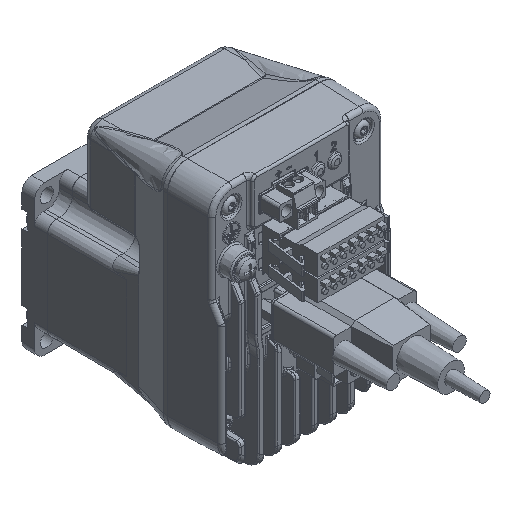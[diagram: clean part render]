
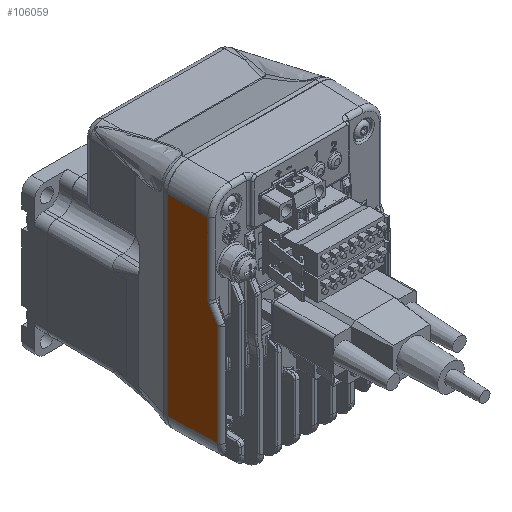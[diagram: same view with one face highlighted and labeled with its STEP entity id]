
A CAD part, isometric view. The second image highlights one B-rep face of the part: STEP entity #106059.
In plain terms, the highlighted planar face has unit normal (-1, -0.018, 0).
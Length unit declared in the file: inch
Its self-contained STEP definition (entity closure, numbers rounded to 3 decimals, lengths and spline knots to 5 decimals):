
#52762=CARTESIAN_POINT('',(-1.26971,-0.08092,0.85813));
#52763=VERTEX_POINT('',#52762);
#65907=CARTESIAN_POINT('',(-1.27215,0.05895,2.18894));
#65908=VERTEX_POINT('',#65907);
#65916=CARTESIAN_POINT('',(-1.27215,0.05895,1.13256));
#65917=VERTEX_POINT('',#65916);
#65918=CARTESIAN_POINT('',(-1.27215,0.05895,1.6976));
#65919=DIRECTION('',(0.,0.,-1.));
#65920=VECTOR('',#65919,39.37008);
#65921=LINE('',#65918,#65920);
#65922=EDGE_CURVE('',#65908,#65917,#65921,.T.);
#73586=CARTESIAN_POINT('',(-1.26971,-0.08092,-0.6518));
#73587=VERTEX_POINT('',#73586);
#73595=CARTESIAN_POINT('',(-1.28239,0.64588,-0.65748));
#73596=VERTEX_POINT('',#73595);
#73597=CARTESIAN_POINT('',(-1.27799,0.39334,-0.65551));
#73598=DIRECTION('',(-0.017,1.,-0.008));
#73599=VECTOR('',#73598,39.37008);
#73600=LINE('',#73597,#73599);
#73601=EDGE_CURVE('',#73587,#73596,#73600,.T.);
#98397=CARTESIAN_POINT('',(-1.28239,0.64588,2.19918));
#98398=VERTEX_POINT('',#98397);
#98406=CARTESIAN_POINT('',(-1.27788,0.38744,2.19467));
#98407=DIRECTION('',(0.017,-1.,-0.017));
#98408=VECTOR('',#98407,39.37008);
#98409=LINE('',#98406,#98408);
#98410=EDGE_CURVE('',#98398,#65908,#98409,.T.);
#99252=CARTESIAN_POINT('',(-1.27187,0.04288,1.07256));
#99253=VERTEX_POINT('',#99252);
#99261=CARTESIAN_POINT('',(-1.27498,0.22085,1.38083));
#99262=DIRECTION('',(0.009,-0.5,-0.866));
#99263=VECTOR('',#99262,39.37008);
#99264=LINE('',#99261,#99263);
#99265=EDGE_CURVE('',#99253,#52763,#99264,.T.);
#100753=CARTESIAN_POINT('',(-1.26971,-0.08092,0.77274));
#100754=DIRECTION('',(0.,0.,-1.));
#100755=VECTOR('',#100754,39.37008);
#100756=LINE('',#100753,#100755);
#100757=EDGE_CURVE('',#52763,#73587,#100756,.T.);
#106034=ORIENTED_EDGE('',*,*,#100757,.F.);
#106035=ORIENTED_EDGE('',*,*,#99265,.F.);
#106036=CARTESIAN_POINT('',(-1.27006,-0.06105,1.13256));
#106037=DIRECTION('',(-1.,-0.017,0.));
#106038=DIRECTION('',(-0.017,1.,0.));
#106039=AXIS2_PLACEMENT_3D('',#106036,#106037,#106038);
#106040=ELLIPSE('',#106039,0.12002,0.12);
#106041=EDGE_CURVE('',#65917,#99253,#106040,.T.);
#106042=ORIENTED_EDGE('',*,*,#106041,.F.);
#106043=ORIENTED_EDGE('',*,*,#65922,.F.);
#106044=ORIENTED_EDGE('',*,*,#98410,.F.);
#106045=CARTESIAN_POINT('',(-1.28239,0.64588,0.709));
#106046=DIRECTION('',(0.,0.,-1.));
#106047=VECTOR('',#106046,1.);
#106048=LINE('',#106045,#106047);
#106049=EDGE_CURVE('',#98398,#73596,#106048,.T.);
#106050=ORIENTED_EDGE('',*,*,#106049,.T.);
#106051=ORIENTED_EDGE('',*,*,#73601,.F.);
#106052=EDGE_LOOP('',(#106034,#106035,#106042,#106043,#106044,#106050,#106051));
#106053=FACE_OUTER_BOUND('',#106052,.T.);
#106054=CARTESIAN_POINT('',(-1.27818,0.40449,2.19866));
#106055=DIRECTION('',(-1.,-0.017,0.));
#106056=DIRECTION('',(-0.017,1.,0.));
#106057=AXIS2_PLACEMENT_3D('',#106054,#106055,#106056);
#106058=PLANE('',#106057);
#106059=ADVANCED_FACE('',(#106053),#106058,.T.);
